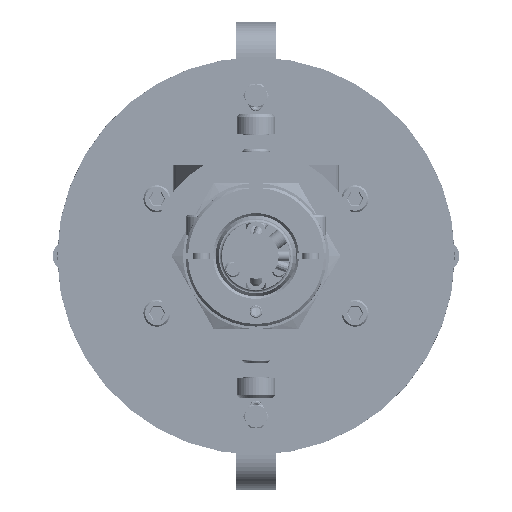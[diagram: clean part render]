
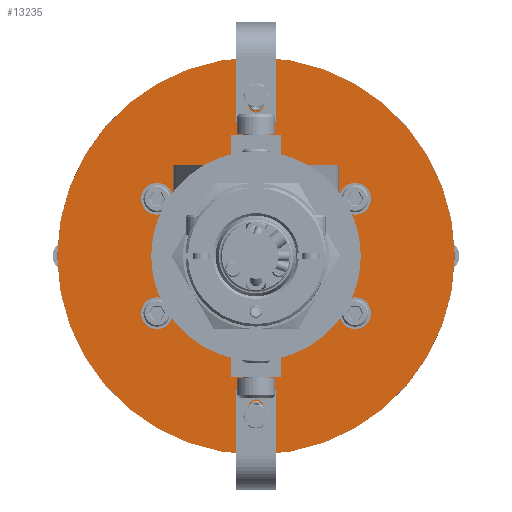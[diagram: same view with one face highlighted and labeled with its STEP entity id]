
A CAD part, front view. The second image highlights one B-rep face of the part: STEP entity #13235.
In plain terms, the highlighted planar face has unit normal (0, -1, 0).
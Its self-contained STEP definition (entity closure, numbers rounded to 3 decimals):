
#12162=CARTESIAN_POINT('',(0.,0.,0.));
#12163=DIRECTION('',(0.,1.,0.));
#12164=DIRECTION('',(1.,0.,0.));
#12165=AXIS2_PLACEMENT_3D('',#12162,#12163,#12164);
#12167=CARTESIAN_POINT('',(0.,0.,0.));
#12168=DIRECTION('',(0.,1.,0.));
#12169=DIRECTION('',(-1.,0.,0.));
#12170=AXIS2_PLACEMENT_3D('',#12167,#12168,#12169);
#12172=CARTESIAN_POINT('',(0.,0.,0.));
#12173=DIRECTION('',(0.,-1.,0.));
#12174=DIRECTION('',(-1.,0.,0.));
#12175=AXIS2_PLACEMENT_3D('',#12172,#12173,#12174);
#12177=CARTESIAN_POINT('',(0.,0.,0.));
#12178=DIRECTION('',(0.,-1.,0.));
#12179=DIRECTION('',(1.,0.,0.));
#12180=AXIS2_PLACEMENT_3D('',#12177,#12178,#12179);
#12182=CARTESIAN_POINT('',(0.,0.,36.));
#12183=DIRECTION('',(0.,-1.,0.));
#12184=DIRECTION('',(-1.,0.,0.));
#12185=AXIS2_PLACEMENT_3D('',#12182,#12183,#12184);
#12187=CARTESIAN_POINT('',(0.,0.,36.));
#12188=DIRECTION('',(0.,-1.,0.));
#12189=DIRECTION('',(1.,0.,0.));
#12190=AXIS2_PLACEMENT_3D('',#12187,#12188,#12189);
#12192=CARTESIAN_POINT('',(31.177,0.,18.));
#12193=DIRECTION('',(0.,-1.,0.));
#12194=DIRECTION('',(-0.5,0.,0.866));
#12195=AXIS2_PLACEMENT_3D('',#12192,#12193,#12194);
#12197=CARTESIAN_POINT('',(31.177,0.,18.));
#12198=DIRECTION('',(0.,-1.,0.));
#12199=DIRECTION('',(0.5,0.,-0.866));
#12200=AXIS2_PLACEMENT_3D('',#12197,#12198,#12199);
#12202=CARTESIAN_POINT('',(31.177,0.,-18.));
#12203=DIRECTION('',(0.,-1.,0.));
#12204=DIRECTION('',(0.5,0.,0.866));
#12205=AXIS2_PLACEMENT_3D('',#12202,#12203,#12204);
#12207=CARTESIAN_POINT('',(31.177,0.,-18.));
#12208=DIRECTION('',(0.,-1.,0.));
#12209=DIRECTION('',(-0.5,0.,-0.866));
#12210=AXIS2_PLACEMENT_3D('',#12207,#12208,#12209);
#12212=CARTESIAN_POINT('',(0.,0.,-36.));
#12213=DIRECTION('',(0.,-1.,0.));
#12214=DIRECTION('',(1.,0.,0.));
#12215=AXIS2_PLACEMENT_3D('',#12212,#12213,#12214);
#12217=CARTESIAN_POINT('',(0.,0.,-36.));
#12218=DIRECTION('',(0.,-1.,0.));
#12219=DIRECTION('',(-1.,0.,0.));
#12220=AXIS2_PLACEMENT_3D('',#12217,#12218,#12219);
#12222=CARTESIAN_POINT('',(-31.177,0.,-18.));
#12223=DIRECTION('',(0.,-1.,0.));
#12224=DIRECTION('',(0.5,0.,-0.866));
#12225=AXIS2_PLACEMENT_3D('',#12222,#12223,#12224);
#12227=CARTESIAN_POINT('',(-31.177,0.,-18.));
#12228=DIRECTION('',(0.,-1.,0.));
#12229=DIRECTION('',(-0.5,0.,0.866));
#12230=AXIS2_PLACEMENT_3D('',#12227,#12228,#12229);
#12232=CARTESIAN_POINT('',(-31.177,0.,18.));
#12233=DIRECTION('',(0.,-1.,0.));
#12234=DIRECTION('',(-0.5,0.,-0.866));
#12235=AXIS2_PLACEMENT_3D('',#12232,#12233,#12234);
#12237=CARTESIAN_POINT('',(-31.177,0.,18.));
#12238=DIRECTION('',(0.,-1.,0.));
#12239=DIRECTION('',(0.5,0.,0.866));
#12240=AXIS2_PLACEMENT_3D('',#12237,#12238,#12239);
#12242=CARTESIAN_POINT('',(0.,0.,47.5));
#12243=DIRECTION('',(0.,-1.,0.));
#12244=DIRECTION('',(-1.,0.,0.));
#12245=AXIS2_PLACEMENT_3D('',#12242,#12243,#12244);
#12247=CARTESIAN_POINT('',(0.,0.,47.5));
#12248=DIRECTION('',(0.,-1.,0.));
#12249=DIRECTION('',(1.,0.,0.));
#12250=AXIS2_PLACEMENT_3D('',#12247,#12248,#12249);
#12252=CARTESIAN_POINT('',(0.,0.,-47.5));
#12253=DIRECTION('',(0.,-1.,0.));
#12254=DIRECTION('',(1.,0.,0.));
#12255=AXIS2_PLACEMENT_3D('',#12252,#12253,#12254);
#12257=CARTESIAN_POINT('',(0.,0.,-47.5));
#12258=DIRECTION('',(0.,-1.,0.));
#12259=DIRECTION('',(-1.,0.,0.));
#12260=AXIS2_PLACEMENT_3D('',#12257,#12258,#12259);
#12986=CARTESIAN_POINT('',(62.5,0.,0.));
#12987=CARTESIAN_POINT('',(-62.5,0.,0.));
#12988=VERTEX_POINT('',#12986);
#12989=VERTEX_POINT('',#12987);
#13014=CARTESIAN_POINT('',(-12.75,0.,0.));
#13015=CARTESIAN_POINT('',(12.75,0.,0.));
#13016=VERTEX_POINT('',#13014);
#13017=VERTEX_POINT('',#13015);
#13030=CARTESIAN_POINT('',(-5.,0.,36.));
#13031=CARTESIAN_POINT('',(5.,0.,36.));
#13032=VERTEX_POINT('',#13030);
#13033=VERTEX_POINT('',#13031);
#13046=CARTESIAN_POINT('',(28.677,0.,22.33));
#13047=CARTESIAN_POINT('',(33.677,0.,13.67));
#13048=VERTEX_POINT('',#13046);
#13049=VERTEX_POINT('',#13047);
#13062=CARTESIAN_POINT('',(33.677,0.,-13.67));
#13063=CARTESIAN_POINT('',(28.677,0.,-22.33));
#13064=VERTEX_POINT('',#13062);
#13065=VERTEX_POINT('',#13063);
#13078=CARTESIAN_POINT('',(5.,0.,-36.));
#13079=CARTESIAN_POINT('',(-5.,0.,-36.));
#13080=VERTEX_POINT('',#13078);
#13081=VERTEX_POINT('',#13079);
#13094=CARTESIAN_POINT('',(-28.677,0.,-22.33));
#13095=CARTESIAN_POINT('',(-33.677,0.,-13.67));
#13096=VERTEX_POINT('',#13094);
#13097=VERTEX_POINT('',#13095);
#13110=CARTESIAN_POINT('',(-33.677,0.,13.67));
#13111=CARTESIAN_POINT('',(-28.677,0.,22.33));
#13112=VERTEX_POINT('',#13110);
#13113=VERTEX_POINT('',#13111);
#13134=CARTESIAN_POINT('',(-2.,0.,47.5));
#13135=CARTESIAN_POINT('',(2.,0.,47.5));
#13136=VERTEX_POINT('',#13134);
#13137=VERTEX_POINT('',#13135);
#13144=CARTESIAN_POINT('',(2.,0.,-47.5));
#13145=CARTESIAN_POINT('',(-2.,0.,-47.5));
#13146=VERTEX_POINT('',#13144);
#13147=VERTEX_POINT('',#13145);
#13170=CARTESIAN_POINT('',(0.,0.,0.));
#13171=DIRECTION('',(0.,1.,0.));
#13172=DIRECTION('',(1.,0.,0.));
#13173=AXIS2_PLACEMENT_3D('',#13170,#13171,#13172);
#13174=PLANE('',#13173);
#13176=ORIENTED_EDGE('',*,*,#13175,.T.);
#13178=ORIENTED_EDGE('',*,*,#13177,.T.);
#13179=EDGE_LOOP('',(#13176,#13178));
#13180=FACE_OUTER_BOUND('',#13179,.F.);
#13182=ORIENTED_EDGE('',*,*,#13181,.T.);
#13184=ORIENTED_EDGE('',*,*,#13183,.T.);
#13185=EDGE_LOOP('',(#13182,#13184));
#13186=FACE_BOUND('',#13185,.F.);
#13188=ORIENTED_EDGE('',*,*,#13187,.T.);
#13190=ORIENTED_EDGE('',*,*,#13189,.T.);
#13191=EDGE_LOOP('',(#13188,#13190));
#13192=FACE_BOUND('',#13191,.F.);
#13194=ORIENTED_EDGE('',*,*,#13193,.T.);
#13196=ORIENTED_EDGE('',*,*,#13195,.T.);
#13197=EDGE_LOOP('',(#13194,#13196));
#13198=FACE_BOUND('',#13197,.F.);
#13200=ORIENTED_EDGE('',*,*,#13199,.T.);
#13202=ORIENTED_EDGE('',*,*,#13201,.T.);
#13203=EDGE_LOOP('',(#13200,#13202));
#13204=FACE_BOUND('',#13203,.F.);
#13206=ORIENTED_EDGE('',*,*,#13205,.T.);
#13208=ORIENTED_EDGE('',*,*,#13207,.T.);
#13209=EDGE_LOOP('',(#13206,#13208));
#13210=FACE_BOUND('',#13209,.F.);
#13212=ORIENTED_EDGE('',*,*,#13211,.T.);
#13214=ORIENTED_EDGE('',*,*,#13213,.T.);
#13215=EDGE_LOOP('',(#13212,#13214));
#13216=FACE_BOUND('',#13215,.F.);
#13218=ORIENTED_EDGE('',*,*,#13217,.T.);
#13220=ORIENTED_EDGE('',*,*,#13219,.T.);
#13221=EDGE_LOOP('',(#13218,#13220));
#13222=FACE_BOUND('',#13221,.F.);
#13224=ORIENTED_EDGE('',*,*,#13223,.T.);
#13226=ORIENTED_EDGE('',*,*,#13225,.T.);
#13227=EDGE_LOOP('',(#13224,#13226));
#13228=FACE_BOUND('',#13227,.F.);
#13230=ORIENTED_EDGE('',*,*,#13229,.T.);
#13232=ORIENTED_EDGE('',*,*,#13231,.T.);
#13233=EDGE_LOOP('',(#13230,#13232));
#13234=FACE_BOUND('',#13233,.F.);
#13235=ADVANCED_FACE('',(#13180,#13186,#13192,#13198,#13204,#13210,#13216,
#13222,#13228,#13234),#13174,.F.);
#12166=CIRCLE('',#12165,62.5);
#12171=CIRCLE('',#12170,62.5);
#12176=CIRCLE('',#12175,12.75);
#12181=CIRCLE('',#12180,12.75);
#12186=CIRCLE('',#12185,5.);
#12191=CIRCLE('',#12190,5.);
#12196=CIRCLE('',#12195,5.);
#12201=CIRCLE('',#12200,5.);
#12206=CIRCLE('',#12205,5.);
#12211=CIRCLE('',#12210,5.);
#12216=CIRCLE('',#12215,5.);
#12221=CIRCLE('',#12220,5.);
#12226=CIRCLE('',#12225,5.);
#12231=CIRCLE('',#12230,5.);
#12236=CIRCLE('',#12235,5.);
#12241=CIRCLE('',#12240,5.);
#12246=CIRCLE('',#12245,2.);
#12251=CIRCLE('',#12250,2.);
#12256=CIRCLE('',#12255,2.);
#12261=CIRCLE('',#12260,2.);
#13175=EDGE_CURVE('',#12988,#12989,#12166,.T.);
#13177=EDGE_CURVE('',#12989,#12988,#12171,.T.);
#13181=EDGE_CURVE('',#13016,#13017,#12176,.T.);
#13183=EDGE_CURVE('',#13017,#13016,#12181,.T.);
#13187=EDGE_CURVE('',#13032,#13033,#12186,.T.);
#13189=EDGE_CURVE('',#13033,#13032,#12191,.T.);
#13193=EDGE_CURVE('',#13048,#13049,#12196,.T.);
#13195=EDGE_CURVE('',#13049,#13048,#12201,.T.);
#13199=EDGE_CURVE('',#13064,#13065,#12206,.T.);
#13201=EDGE_CURVE('',#13065,#13064,#12211,.T.);
#13205=EDGE_CURVE('',#13080,#13081,#12216,.T.);
#13207=EDGE_CURVE('',#13081,#13080,#12221,.T.);
#13211=EDGE_CURVE('',#13096,#13097,#12226,.T.);
#13213=EDGE_CURVE('',#13097,#13096,#12231,.T.);
#13217=EDGE_CURVE('',#13112,#13113,#12236,.T.);
#13219=EDGE_CURVE('',#13113,#13112,#12241,.T.);
#13223=EDGE_CURVE('',#13136,#13137,#12246,.T.);
#13225=EDGE_CURVE('',#13137,#13136,#12251,.T.);
#13229=EDGE_CURVE('',#13146,#13147,#12256,.T.);
#13231=EDGE_CURVE('',#13147,#13146,#12261,.T.);
